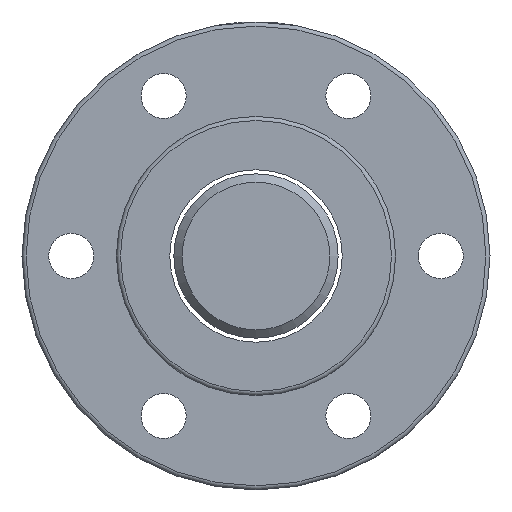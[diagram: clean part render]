
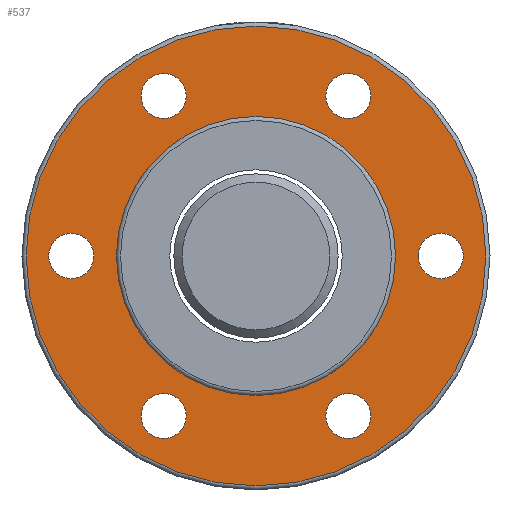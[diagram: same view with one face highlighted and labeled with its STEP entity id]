
A CAD part, left-side view. The second image highlights one B-rep face of the part: STEP entity #537.
In plain terms, the highlighted planar face has unit normal (-1, 0, 0).
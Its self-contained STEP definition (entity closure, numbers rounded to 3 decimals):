
#74=PLANE('',#635);
#132=ORIENTED_EDGE('',*,*,#208,.T.);
#133=ORIENTED_EDGE('',*,*,#219,.F.);
#134=ORIENTED_EDGE('',*,*,#203,.T.);
#135=ORIENTED_EDGE('',*,*,#199,.T.);
#136=ORIENTED_EDGE('',*,*,#191,.T.);
#137=ORIENTED_EDGE('',*,*,#187,.T.);
#138=ORIENTED_EDGE('',*,*,#195,.T.);
#139=ORIENTED_EDGE('',*,*,#207,.T.);
#187=EDGE_CURVE('',#239,#239,#286,.T.);
#191=EDGE_CURVE('',#243,#243,#290,.T.);
#195=EDGE_CURVE('',#247,#247,#294,.T.);
#199=EDGE_CURVE('',#251,#251,#298,.T.);
#203=EDGE_CURVE('',#255,#255,#302,.T.);
#207=EDGE_CURVE('',#259,#259,#306,.T.);
#208=EDGE_CURVE('',#260,#260,#307,.T.);
#219=EDGE_CURVE('',#271,#271,#314,.T.);
#239=VERTEX_POINT('',#836);
#243=VERTEX_POINT('',#847);
#247=VERTEX_POINT('',#858);
#251=VERTEX_POINT('',#869);
#255=VERTEX_POINT('',#880);
#259=VERTEX_POINT('',#891);
#260=VERTEX_POINT('',#894);
#271=VERTEX_POINT('',#939);
#286=CIRCLE('',#585,2.75);
#290=CIRCLE('',#592,2.75);
#294=CIRCLE('',#599,2.75);
#298=CIRCLE('',#606,2.75);
#302=CIRCLE('',#613,2.75);
#306=CIRCLE('',#620,2.75);
#307=CIRCLE('',#622,17.);
#314=CIRCLE('',#634,28.);
#373=EDGE_LOOP('',(#132));
#374=EDGE_LOOP('',(#133));
#375=EDGE_LOOP('',(#134));
#376=EDGE_LOOP('',(#135));
#377=EDGE_LOOP('',(#136));
#378=EDGE_LOOP('',(#137));
#379=EDGE_LOOP('',(#138));
#380=EDGE_LOOP('',(#139));
#458=FACE_BOUND('',#373,.T.);
#459=FACE_BOUND('',#374,.T.);
#460=FACE_BOUND('',#375,.T.);
#461=FACE_BOUND('',#376,.T.);
#462=FACE_BOUND('',#377,.T.);
#463=FACE_BOUND('',#378,.T.);
#464=FACE_BOUND('',#379,.T.);
#465=FACE_BOUND('',#380,.T.);
#537=ADVANCED_FACE('',(#458,#459,#460,#461,#462,#463,#464,#465),#74,.F.);
#585=AXIS2_PLACEMENT_3D('',#835,#675,#676);
#592=AXIS2_PLACEMENT_3D('',#846,#689,#690);
#599=AXIS2_PLACEMENT_3D('',#857,#703,#704);
#606=AXIS2_PLACEMENT_3D('',#868,#717,#718);
#613=AXIS2_PLACEMENT_3D('',#879,#731,#732);
#620=AXIS2_PLACEMENT_3D('',#890,#745,#746);
#622=AXIS2_PLACEMENT_3D('',#893,#749,#750);
#634=AXIS2_PLACEMENT_3D('',#938,#773,#774);
#635=AXIS2_PLACEMENT_3D('',#940,#775,#776);
#675=DIRECTION('',(1.,0.,0.));
#676=DIRECTION('',(0.,1.,0.));
#689=DIRECTION('',(1.,0.,0.));
#690=DIRECTION('',(0.,1.,0.));
#703=DIRECTION('',(1.,0.,0.));
#704=DIRECTION('',(0.,1.,0.));
#717=DIRECTION('',(1.,0.,0.));
#718=DIRECTION('',(0.,1.,0.));
#731=DIRECTION('',(1.,0.,0.));
#732=DIRECTION('',(0.,1.,0.));
#745=DIRECTION('',(1.,0.,0.));
#746=DIRECTION('',(0.,1.,0.));
#749=DIRECTION('',(1.,0.,0.));
#750=DIRECTION('',(0.,1.,0.));
#773=DIRECTION('',(1.,0.,0.));
#774=DIRECTION('',(0.,1.,0.));
#775=DIRECTION('',(1.,0.,0.));
#776=DIRECTION('',(0.,1.,0.));
#835=CARTESIAN_POINT('',(-26.,22.5,0.));
#836=CARTESIAN_POINT('',(-26.,25.25,0.));
#846=CARTESIAN_POINT('',(-26.,-22.5,0.));
#847=CARTESIAN_POINT('',(-26.,-19.75,0.));
#857=CARTESIAN_POINT('',(-26.,11.25,-19.486));
#858=CARTESIAN_POINT('',(-26.,14.,-19.486));
#868=CARTESIAN_POINT('',(-26.,-11.25,-19.486));
#869=CARTESIAN_POINT('',(-26.,-8.5,-19.486));
#879=CARTESIAN_POINT('',(-26.,-11.25,19.486));
#880=CARTESIAN_POINT('',(-26.,-8.5,19.486));
#890=CARTESIAN_POINT('',(-26.,11.25,19.486));
#891=CARTESIAN_POINT('',(-26.,14.,19.486));
#893=CARTESIAN_POINT('',(-26.,0.,0.));
#894=CARTESIAN_POINT('',(-26.,17.,0.));
#938=CARTESIAN_POINT('',(-26.,0.,0.));
#939=CARTESIAN_POINT('',(-26.,28.,0.));
#940=CARTESIAN_POINT('',(-26.,22.5,0.));
